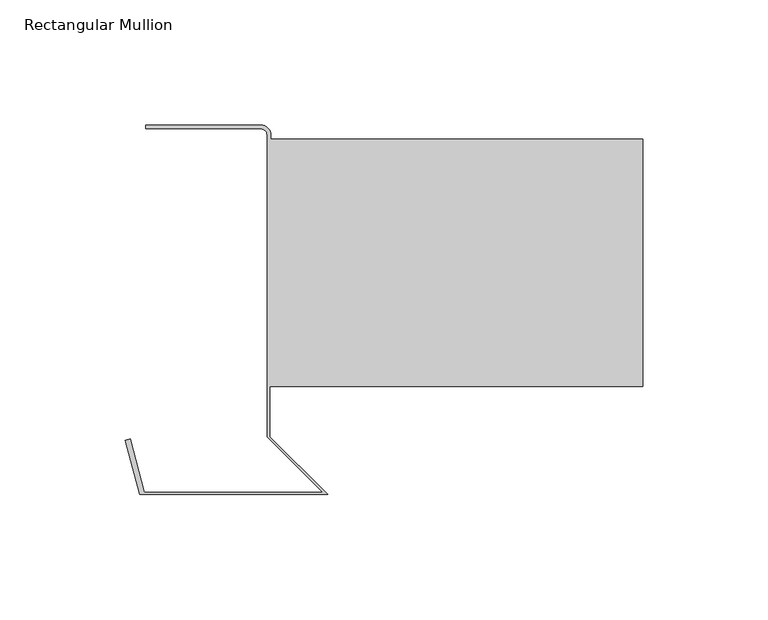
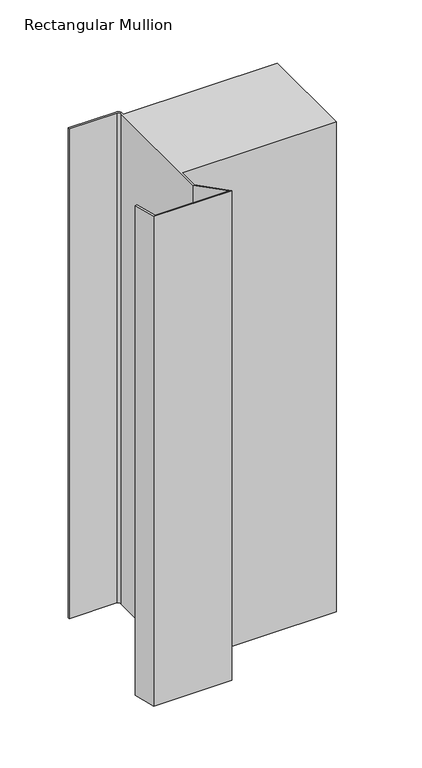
"""IFC4 building model written with IfcOpenShell, lengths in millimetres: member geometry, Rectangular Mullion : TE-V-02_01_Base detail i."""

from ifc_helpers import new_model, si_unit, point, frame, frame_2d, origin, place, context, project, spatial, polyline, circle_curve, trimmed, segment, composite_curve, outline, extrude, source, transform, mapped, element, save


def rectangular_mullion_6127d420(model_context):
    return source(origin(), model_context, "Body", "SweptSolid", [
        extrude(outline(composite_curve([segment(polyline([(-148.8686292, 20.0), (-148.8686292, 0.0), (-125.8686292, -23.0), (-200.8686292, -23.0), (-206.6383068, -1.4672699), (-204.7064551, -0.9496318), (-199.0124361, -22.2), (-127.8, -22.2), (-150.0, 0.0), (-150.0, 120.5)]), True, "CONTINUOUS"), segment(trimmed(circle_curve(frame_2d((-152.5, 120.5)), 2.5), [point((-150.0, 120.5))], [point((-152.5, 123.0))], True, "CARTESIAN"), True, "CONTINUOUS"), segment(polyline([(-152.5, 123.0), (-198.5, 123.0), (-198.5, 124.5), (-152.5, 124.5)]), True, "CONTINUOUS"), segment(trimmed(circle_curve(frame_2d((-152.5, 120.5)), 4.0), [point((-152.5, 124.5))], [point((-148.5, 120.5))], False, "CARTESIAN"), True, "CONTINUOUS"), segment(polyline([(-148.5, 120.5), (-148.5, 119.0), (0.0, 119.0), (0.0, 20.0), (-148.8686292, 20.0)]), True, "CONTINUOUS")], self_intersect=False)), frame((0.0, 0.0, -499.9999997), z_axis=(0.0, 0.0, 1.0), x_axis=(1.0, 0.0, 0.0)), (0.0, 0.0, 1.0), 499.9999997),
    ])


if __name__ == "__main__":
    model = new_model("IFC4")
    model_context = context("Model", 3, world=origin())
    ifc_project = project(units=[si_unit("LENGTHUNIT", "METRE", prefix="MILLI")], contexts=[model_context])
    site = spatial("IfcSite", under=ifc_project)
    building = spatial("IfcBuilding", under=site)
    placement = place(None, origin())
    rectangular_mullion_shape = rectangular_mullion_6127d420(model_context)
    element("IfcMember", 1, ObjectType="Rectangular Mullion : TE-V-02_01_Base detail i", at=placement, inside=building, context=model_context, shape_type="MappedRepresentation", body=[
        mapped(rectangular_mullion_shape, transform((0.0, 0.0, 0.0), x_axis=(1.0, 0.0, 0.0), y_axis=(0.0, 1.0, 0.0), z_axis=(0.0, 0.0, 1.0))),
    ])
    save(model, "model.ifc")
